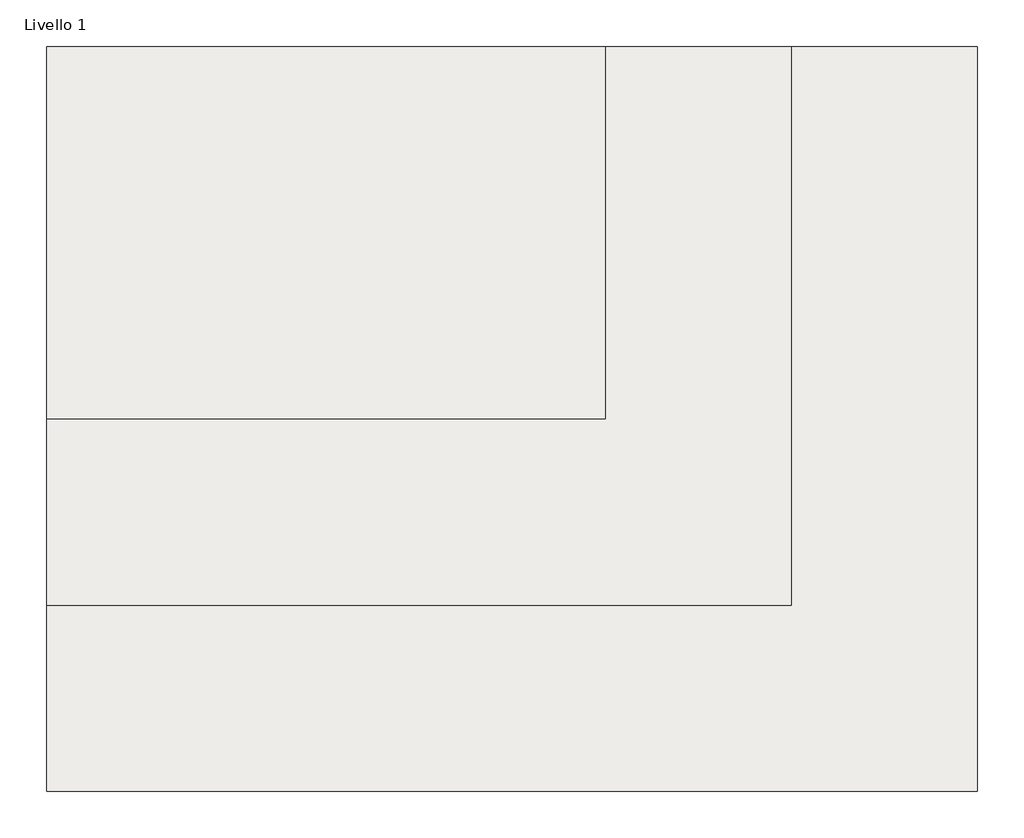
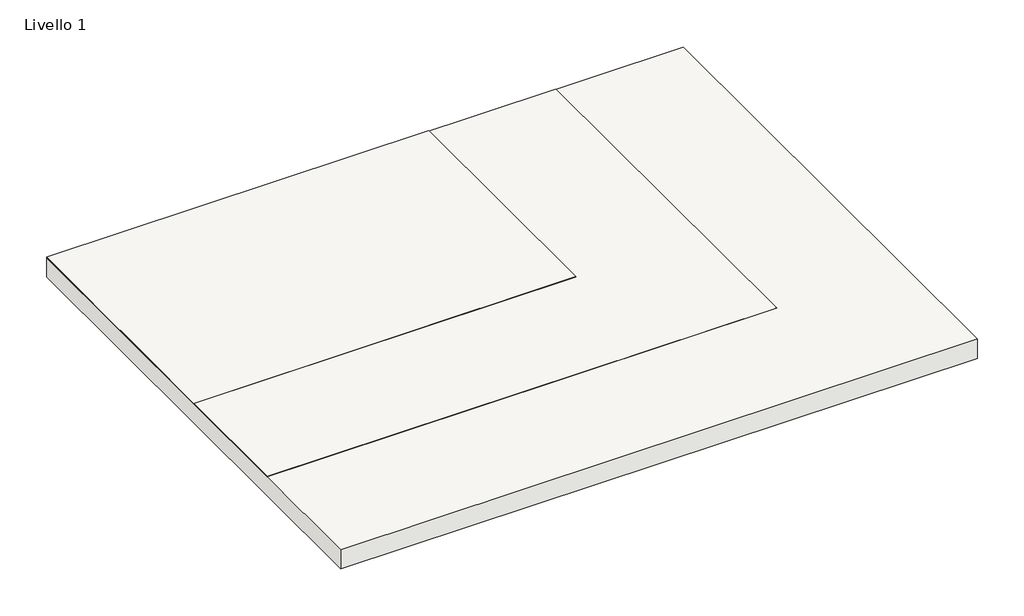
# One storey: 1 slab.
"""IFC4 building model written with IfcOpenShell, lengths in millimetres."""

from ifc_helpers import new_model, si_unit, frame, origin, place, context, project, spatial, polyline, outline, extrude, element, save

model = new_model("IFC4")

# Units and contexts
model_context = context("Model", 3, world=origin())
ifc_project = project(units=[si_unit("LENGTHUNIT", "METRE", prefix="MILLI")], contexts=[model_context])

# Site, building, storey
site = spatial("IfcSite", under=ifc_project)
building = spatial("IfcBuilding", under=site)
storey = spatial("IfcBuildingStorey", under=building, Name="Livello 1", Elevation=0.0)

# Slab
placement = place(None, origin())
element("IfcSlab", 1, ObjectType="MAPEI - Ciclovias e zonas pedonais ou áreas urbanas a base de resinas sintéticas", at=placement, inside=storey, context=model_context, shape_type="SweptSolid", body=[
    extrude(outline(polyline([(1707.7963918, 1184.9122843), (207.7963918, 1184.9122843), (207.7963918, 2184.9122843), (1707.7963918, 2184.9122843), (1707.7963918, 1184.9122843)])), frame((0.0, 0.0, -1.5), z_axis=(0.0, 0.0, 1.0), x_axis=(1.0, 0.0, 0.0)), (0.0, 0.0, 1.0), 1.5),
    extrude(outline(polyline([(2207.7963918, 684.9122843), (207.7963918, 684.9122843), (207.7963918, 2184.9122843), (2207.7963918, 2184.9122843), (2207.7963918, 684.9122843)])), frame((0.0, 0.0, -2.5), z_axis=(0.0, 0.0, 1.0), x_axis=(1.0, 0.0, 0.0)), (0.0, 0.0, 1.0), 1.0),
    extrude(outline(polyline([(2707.7963918, 184.9122843), (207.7963918, 184.9122843), (207.7963918, 2184.9122843), (2707.7963918, 2184.9122843), (2707.7963918, 184.9122843)])), frame((0.0, 0.0, -82.5), z_axis=(0.0, 0.0, 1.0), x_axis=(1.0, 0.0, 0.0)), (0.0, 0.0, 1.0), 80.0),
])

save(model, "model.ifc")
